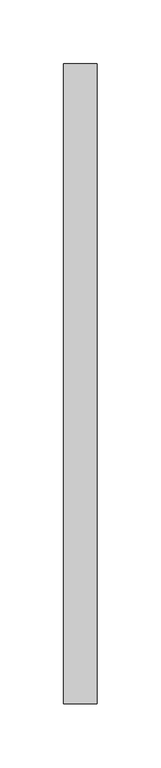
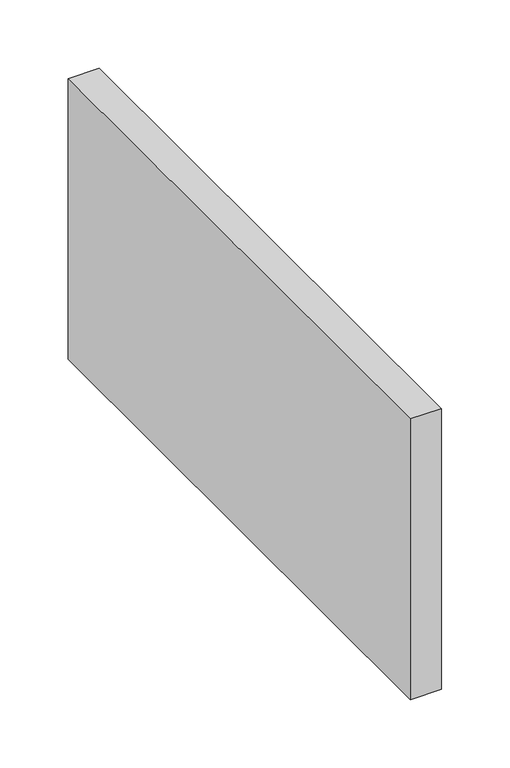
"""IFC4 building model written with IfcOpenShell, lengths in millimetres: duct fitting geometry, ADSK_ВрезкаВоздуховода_Прямоугольная1 : Стандарт 2."""

from ifc_helpers import new_model, si_unit, frame, origin, place, context, project, spatial, polyline, outline, extrude, source, transform, mapped, element, save


def duct_fitting_d71fa620(model_context):
    return source(origin(), model_context, "Body", "SweptSolid", [
        extrude(outline(polyline([(-6.096, 250.0), (20.0, 250.0), (20.0, -250.0), (-6.096, -250.0), (-6.096, 250.0)])), frame((0.0, 0.0, -125.0), z_axis=(0.0, 0.0, 1.0), x_axis=(1.0, 0.0, 0.0)), (0.0, 0.0, 1.0), 250.0),
    ])


if __name__ == "__main__":
    model = new_model("IFC4")
    model_context = context("Model", 3, world=origin())
    ifc_project = project(units=[si_unit("LENGTHUNIT", "METRE", prefix="MILLI")], contexts=[model_context])
    site = spatial("IfcSite", under=ifc_project)
    building = spatial("IfcBuilding", under=site)
    placement = place(None, origin())
    duct_fitting_shape = duct_fitting_d71fa620(model_context)
    element("IfcDuctFitting", 1, ObjectType="ADSK_ВрезкаВоздуховода_Прямоугольная1 : Стандарт 2", at=placement, inside=building, context=model_context, shape_type="MappedRepresentation", body=[
        mapped(duct_fitting_shape, transform((0.0, 0.0, 0.0), x_axis=(1.0, 0.0, 0.0), y_axis=(0.0, 1.0, 0.0), z_axis=(0.0, 0.0, 1.0))),
    ])
    save(model, "model.ifc")
